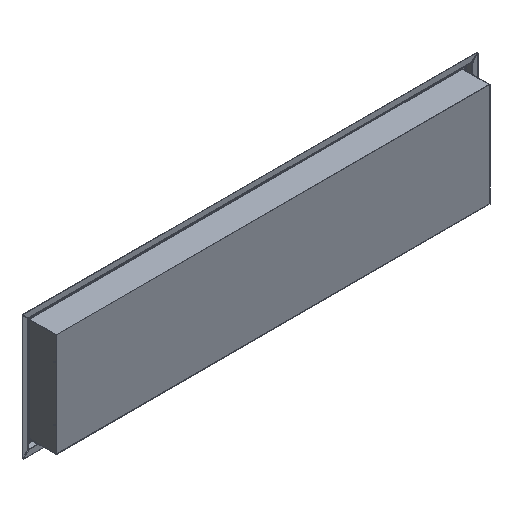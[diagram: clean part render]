
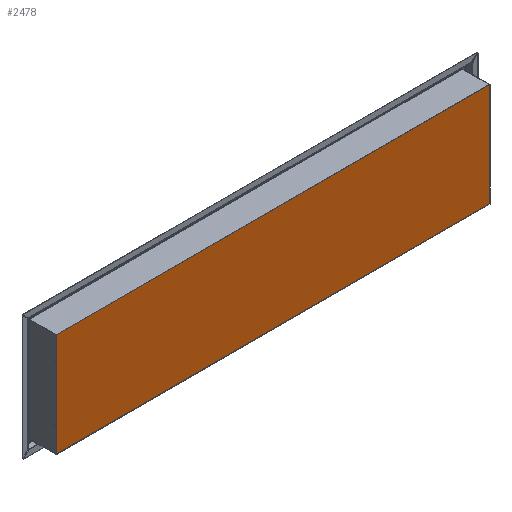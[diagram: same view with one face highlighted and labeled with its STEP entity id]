
A CAD part, isometric view. The second image highlights one B-rep face of the part: STEP entity #2478.
In plain terms, the highlighted planar face has unit normal (0, -1, 0).
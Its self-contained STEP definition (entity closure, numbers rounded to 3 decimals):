
#224=FACE_OUTER_BOUND('',#379,.T.);
#379=EDGE_LOOP('',(#1664,#1665,#1666,#1667,#1668));
#548=LINE('',#3715,#800);
#551=LINE('',#3792,#803);
#552=LINE('',#3793,#804);
#553=LINE('',#3795,#805);
#554=LINE('',#3796,#806);
#800=VECTOR('',#2932,283.);
#803=VECTOR('',#2937,10.);
#804=VECTOR('',#2938,10.);
#805=VECTOR('',#2939,10.);
#806=VECTOR('',#2940,283.);
#1048=VERTEX_POINT('',#3712);
#1049=VERTEX_POINT('',#3714);
#1053=VERTEX_POINT('',#3790);
#1054=VERTEX_POINT('',#3791);
#1055=VERTEX_POINT('',#3794);
#1273=EDGE_CURVE('',#1048,#1049,#548,.T.);
#1278=EDGE_CURVE('',#1053,#1054,#551,.T.);
#1279=EDGE_CURVE('',#1053,#1049,#552,.T.);
#1280=EDGE_CURVE('',#1055,#1048,#553,.T.);
#1281=EDGE_CURVE('',#1054,#1055,#554,.T.);
#1664=ORIENTED_EDGE('',*,*,#1278,.F.);
#1665=ORIENTED_EDGE('',*,*,#1279,.T.);
#1666=ORIENTED_EDGE('',*,*,#1273,.F.);
#1667=ORIENTED_EDGE('',*,*,#1280,.F.);
#1668=ORIENTED_EDGE('',*,*,#1281,.F.);
#2389=PLANE('',#2647);
#2478=ADVANCED_FACE('',(#224),#2389,.F.);
#2647=AXIS2_PLACEMENT_3D('',#3789,#2935,#2936);
#2932=DIRECTION('',(0.,0.,-1.));
#2935=DIRECTION('center_axis',(0.,1.,0.));
#2936=DIRECTION('ref_axis',(0.,0.,1.));
#2937=DIRECTION('',(0.,0.,1.));
#2938=DIRECTION('',(1.,0.,0.));
#2939=DIRECTION('',(1.,0.,0.));
#2940=DIRECTION('',(0.,0.,1.));
#3712=CARTESIAN_POINT('',(3852.443,-9.6,2062.487));
#3714=CARTESIAN_POINT('',(3852.443,-9.6,1779.487));
#3715=CARTESIAN_POINT('',(3852.443,-9.6,2062.487));
#3789=CARTESIAN_POINT('Origin',(3110.943,-9.6,2067.107));
#3790=CARTESIAN_POINT('',(2669.443,-9.6,1779.487));
#3791=CARTESIAN_POINT('',(2669.443,-9.6,1780.487));
#3792=CARTESIAN_POINT('',(2669.443,-9.6,1779.487));
#3793=CARTESIAN_POINT('',(3851.443,-9.6,1779.487));
#3794=CARTESIAN_POINT('',(2669.443,-9.6,2062.487));
#3795=CARTESIAN_POINT('',(3481.193,-9.6,2062.487));
#3796=CARTESIAN_POINT('',(2669.443,-9.6,1779.487));
